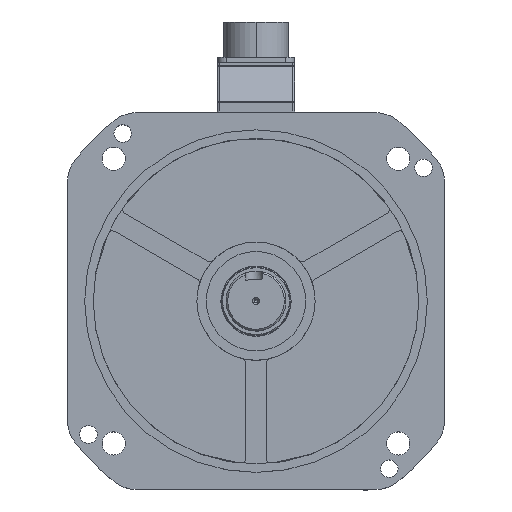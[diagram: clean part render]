
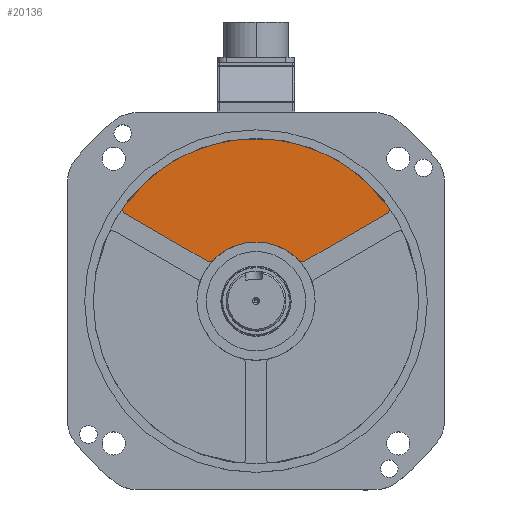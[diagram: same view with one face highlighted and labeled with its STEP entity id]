
A CAD part, top view. The second image highlights one B-rep face of the part: STEP entity #20136.
In plain terms, the highlighted planar face has unit normal (0, 0, 1).
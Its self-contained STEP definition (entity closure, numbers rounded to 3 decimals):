
#1238 = CARTESIAN_POINT ( 'NONE',  ( -74.792, 53.574, 16. ) ) ;
#1405 = EDGE_CURVE ( 'NONE', #18939, #41219, #3982, .T. ) ;
#1834 = VERTEX_POINT ( 'NONE', #38052 ) ;
#3458 = CIRCLE ( 'NONE', #10032, 3. ) ;
#3548 = CARTESIAN_POINT ( 'NONE',  ( 76.292, 50.976, 16. ) ) ;
#3982 = CIRCLE ( 'NONE', #23693, 95. ) ;
#4819 = VERTEX_POINT ( 'NONE', #44856 ) ;
#5541 = AXIS2_PLACEMENT_3D ( 'NONE', #32061, #6284, #6614 ) ;
#6284 = DIRECTION ( 'NONE',  ( 0., 0., 1. ) ) ;
#6421 = ORIENTED_EDGE ( 'NONE', *, *, #10521, .T. ) ;
#6614 = DIRECTION ( 'NONE',  ( 1., 0., 0. ) ) ;
#7546 = DIRECTION ( 'NONE',  ( 1., 0., 0. ) ) ;
#7869 = VERTEX_POINT ( 'NONE', #54721 ) ;
#8612 = ORIENTED_EDGE ( 'NONE', *, *, #1405, .F. ) ;
#8840 = CARTESIAN_POINT ( 'NONE',  ( 0., 0., 16. ) ) ;
#9433 = LINE ( 'NONE', #25880, #52646 ) ;
#9919 = CIRCLE ( 'NONE', #5541, 3. ) ;
#10032 = AXIS2_PLACEMENT_3D ( 'NONE', #43059, #42379, #11461 ) ;
#10307 = AXIS2_PLACEMENT_3D ( 'NONE', #8840, #33918, #44574 ) ;
#10521 = EDGE_CURVE ( 'NONE', #29596, #41219, #3458, .T. ) ;
#10537 = VECTOR ( 'NONE', #24236, 1000. ) ;
#11359 = EDGE_CURVE ( 'NONE', #36457, #1834, #13969, .T. ) ;
#11461 = DIRECTION ( 'NONE',  ( 1., 0., 0. ) ) ;
#12246 = DIRECTION ( 'NONE',  ( 0., 0., 1. ) ) ;
#12329 = EDGE_LOOP ( 'NONE', ( #6421, #8612, #46972, #15254, #25446, #13813, #59541, #39966, #22092 ) ) ;
#13813 = ORIENTED_EDGE ( 'NONE', *, *, #65852, .T. ) ;
#13969 = CIRCLE ( 'NONE', #29307, 3. ) ;
#13998 = PLANE ( 'NONE',  #10307 ) ;
#15254 = ORIENTED_EDGE ( 'NONE', *, *, #11359, .T. ) ;
#18939 = VERTEX_POINT ( 'NONE', #46582 ) ;
#19206 = DIRECTION ( 'NONE',  ( 0., 0., 1. ) ) ;
#20136 = ADVANCED_FACE ( 'NONE', ( #61042 ), #13998, .T. ) ;
#22092 = ORIENTED_EDGE ( 'NONE', *, *, #58670, .T. ) ;
#22185 = DIRECTION ( 'NONE',  ( 0., 0., 1. ) ) ;
#22439 = CARTESIAN_POINT ( 'NONE',  ( 28.527, 23.398, 16. ) ) ;
#23693 = AXIS2_PLACEMENT_3D ( 'NONE', #63576, #31986, #52915 ) ;
#24236 = DIRECTION ( 'NONE',  ( -0.866, 0.5, 0. ) ) ;
#25446 = ORIENTED_EDGE ( 'NONE', *, *, #38341, .F. ) ;
#25880 = CARTESIAN_POINT ( 'NONE',  ( -3., 5.196, 16. ) ) ;
#27240 = EDGE_CURVE ( 'NONE', #4819, #49141, #39550, .T. ) ;
#29307 = AXIS2_PLACEMENT_3D ( 'NONE', #1238, #22185, #64098 ) ;
#29596 = VERTEX_POINT ( 'NONE', #3548 ) ;
#30386 = DIRECTION ( 'NONE',  ( 0.866, 0.5, 0. ) ) ;
#31986 = DIRECTION ( 'NONE',  ( 0., 0., -1. ) ) ;
#32061 = CARTESIAN_POINT ( 'NONE',  ( -74.792, 53.574, 16. ) ) ;
#32359 = CARTESIAN_POINT ( 'NONE',  ( -24.865, 23.917, 16. ) ) ;
#33918 = DIRECTION ( 'NONE',  ( 0., 0., 1. ) ) ;
#36457 = VERTEX_POINT ( 'NONE', #54388 ) ;
#37108 = CIRCLE ( 'NONE', #67801, 34.5 ) ;
#38052 = CARTESIAN_POINT ( 'NONE',  ( -76.292, 50.976, 16. ) ) ;
#38341 = EDGE_CURVE ( 'NONE', #7869, #1834, #45547, .T. ) ;
#39550 = CIRCLE ( 'NONE', #57107, 3. ) ;
#39966 = ORIENTED_EDGE ( 'NONE', *, *, #27240, .T. ) ;
#41219 = VERTEX_POINT ( 'NONE', #67896 ) ;
#42379 = DIRECTION ( 'NONE',  ( 0., 0., 1. ) ) ;
#43059 = CARTESIAN_POINT ( 'NONE',  ( 74.792, 53.574, 16. ) ) ;
#44533 = CARTESIAN_POINT ( 'NONE',  ( 3., 5.196, 16. ) ) ;
#44574 = DIRECTION ( 'NONE',  ( 1., 0., 0. ) ) ;
#44679 = DIRECTION ( 'NONE',  ( 1., 0., 0. ) ) ;
#44856 = CARTESIAN_POINT ( 'NONE',  ( 24.865, 23.917, 16. ) ) ;
#45547 = LINE ( 'NONE', #44533, #10537 ) ;
#45666 = CARTESIAN_POINT ( 'NONE',  ( 27.027, 25.996, 16. ) ) ;
#45924 = VERTEX_POINT ( 'NONE', #32359 ) ;
#46582 = CARTESIAN_POINT ( 'NONE',  ( -77.231, 55.321, 16. ) ) ;
#46831 = EDGE_CURVE ( 'NONE', #4819, #45924, #37108, .T. ) ;
#46972 = ORIENTED_EDGE ( 'NONE', *, *, #57486, .T. ) ;
#48983 = CARTESIAN_POINT ( 'NONE',  ( 0., 0., 16. ) ) ;
#49141 = VERTEX_POINT ( 'NONE', #22439 ) ;
#49808 = CARTESIAN_POINT ( 'NONE',  ( -27.027, 25.996, 16. ) ) ;
#52646 = VECTOR ( 'NONE', #30386, 1000. ) ;
#52915 = DIRECTION ( 'NONE',  ( 1., 0., 0. ) ) ;
#53274 = CIRCLE ( 'NONE', #58772, 3. ) ;
#54388 = CARTESIAN_POINT ( 'NONE',  ( -77.792, 53.574, 16. ) ) ;
#54721 = CARTESIAN_POINT ( 'NONE',  ( -28.527, 23.398, 16. ) ) ;
#57107 = AXIS2_PLACEMENT_3D ( 'NONE', #45666, #19206, #7546 ) ;
#57486 = EDGE_CURVE ( 'NONE', #18939, #36457, #9919, .T. ) ;
#58670 = EDGE_CURVE ( 'NONE', #49141, #29596, #9433, .T. ) ;
#58772 = AXIS2_PLACEMENT_3D ( 'NONE', #49808, #65961, #44679 ) ;
#59541 = ORIENTED_EDGE ( 'NONE', *, *, #46831, .F. ) ;
#61042 = FACE_OUTER_BOUND ( 'NONE', #12329, .T. ) ;
#63576 = CARTESIAN_POINT ( 'NONE',  ( 0., 0., 16. ) ) ;
#64098 = DIRECTION ( 'NONE',  ( 1., 0., 0. ) ) ;
#64459 = DIRECTION ( 'NONE',  ( 1., 0., 0. ) ) ;
#65852 = EDGE_CURVE ( 'NONE', #7869, #45924, #53274, .T. ) ;
#65961 = DIRECTION ( 'NONE',  ( 0., 0., 1. ) ) ;
#67801 = AXIS2_PLACEMENT_3D ( 'NONE', #48983, #12246, #64459 ) ;
#67896 = CARTESIAN_POINT ( 'NONE',  ( 77.231, 55.321, 16. ) ) ;
